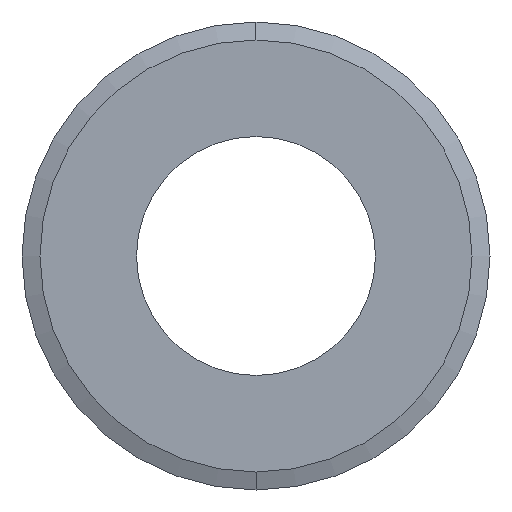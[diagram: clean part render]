
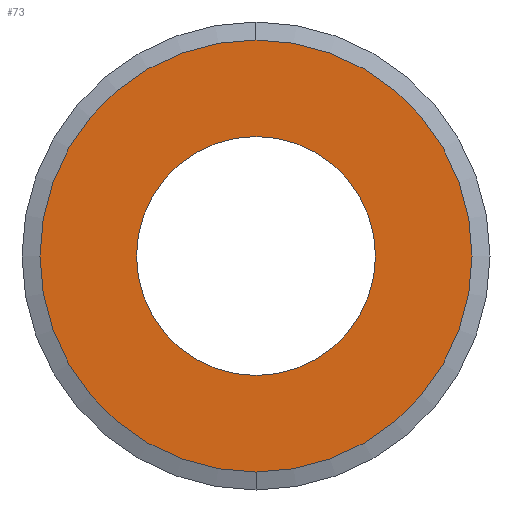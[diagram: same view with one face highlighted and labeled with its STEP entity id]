
A CAD part, left-side view. The second image highlights one B-rep face of the part: STEP entity #73.
In plain terms, the highlighted planar face has unit normal (-1, 0, 0).
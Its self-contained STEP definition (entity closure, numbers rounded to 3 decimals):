
#21 = AXIS2_PLACEMENT_3D ( 'NONE', #844, #1638, #712 ) ;
#32 = DIRECTION ( 'NONE',  ( 0., 0., -1. ) ) ;
#39 = CARTESIAN_POINT ( 'NONE',  ( 0., 0., 0. ) ) ;
#44 = VERTEX_POINT ( 'NONE', #69 ) ;
#69 = CARTESIAN_POINT ( 'NONE',  ( 0., 0., -16.6 ) ) ;
#73 = ADVANCED_FACE ( 'NONE', ( #137, #531 ), #1412, .F. ) ;
#101 = DIRECTION ( 'NONE',  ( 1., 0., 0. ) ) ;
#124 = CARTESIAN_POINT ( 'NONE',  ( 0., 0., 0. ) ) ;
#137 = FACE_BOUND ( 'NONE', #154, .T. ) ;
#154 = EDGE_LOOP ( 'NONE', ( #413, #763 ) ) ;
#202 = CARTESIAN_POINT ( 'NONE',  ( 0., 0., 0. ) ) ;
#211 = DIRECTION ( 'NONE',  ( 0., 0., 1. ) ) ;
#294 = EDGE_CURVE ( 'NONE', #44, #332, #500, .T. ) ;
#298 = EDGE_CURVE ( 'NONE', #1234, #372, #1230, .T. ) ;
#332 = VERTEX_POINT ( 'NONE', #1571 ) ;
#372 = VERTEX_POINT ( 'NONE', #1161 ) ;
#413 = ORIENTED_EDGE ( 'NONE', *, *, #294, .T. ) ;
#500 = CIRCLE ( 'NONE', #673, 16.6 ) ;
#531 = FACE_OUTER_BOUND ( 'NONE', #1306, .T. ) ;
#555 = AXIS2_PLACEMENT_3D ( 'NONE', #202, #1284, #598 ) ;
#598 = DIRECTION ( 'NONE',  ( 0., 0., -1. ) ) ;
#673 = AXIS2_PLACEMENT_3D ( 'NONE', #124, #101, #32 ) ;
#712 = DIRECTION ( 'NONE',  ( 0., 0., 1. ) ) ;
#745 = CIRCLE ( 'NONE', #555, 16.6 ) ;
#756 = AXIS2_PLACEMENT_3D ( 'NONE', #39, #800, #211 ) ;
#763 = ORIENTED_EDGE ( 'NONE', *, *, #1671, .T. ) ;
#800 = DIRECTION ( 'NONE',  ( -1., 0., 0. ) ) ;
#806 = CARTESIAN_POINT ( 'NONE',  ( 0., 0., 30. ) ) ;
#807 = ORIENTED_EDGE ( 'NONE', *, *, #298, .T. ) ;
#833 = EDGE_CURVE ( 'NONE', #372, #1234, #870, .T. ) ;
#844 = CARTESIAN_POINT ( 'NONE',  ( 0., 0., 0. ) ) ;
#870 = CIRCLE ( 'NONE', #21, 30. ) ;
#1161 = CARTESIAN_POINT ( 'NONE',  ( 0., 0., -30. ) ) ;
#1230 = CIRCLE ( 'NONE', #756, 30. ) ;
#1234 = VERTEX_POINT ( 'NONE', #806 ) ;
#1284 = DIRECTION ( 'NONE',  ( 1., 0., 0. ) ) ;
#1306 = EDGE_LOOP ( 'NONE', ( #807, #1526 ) ) ;
#1412 = PLANE ( 'NONE',  #1429 ) ;
#1417 = DIRECTION ( 'NONE',  ( 1., 0., 0. ) ) ;
#1429 = AXIS2_PLACEMENT_3D ( 'NONE', #1464, #1417, #1705 ) ;
#1464 = CARTESIAN_POINT ( 'NONE',  ( 0., 0., 0. ) ) ;
#1526 = ORIENTED_EDGE ( 'NONE', *, *, #833, .T. ) ;
#1571 = CARTESIAN_POINT ( 'NONE',  ( 0., 0., 16.6 ) ) ;
#1638 = DIRECTION ( 'NONE',  ( -1., 0., 0. ) ) ;
#1671 = EDGE_CURVE ( 'NONE', #332, #44, #745, .T. ) ;
#1705 = DIRECTION ( 'NONE',  ( 0., 0., -1. ) ) ;
